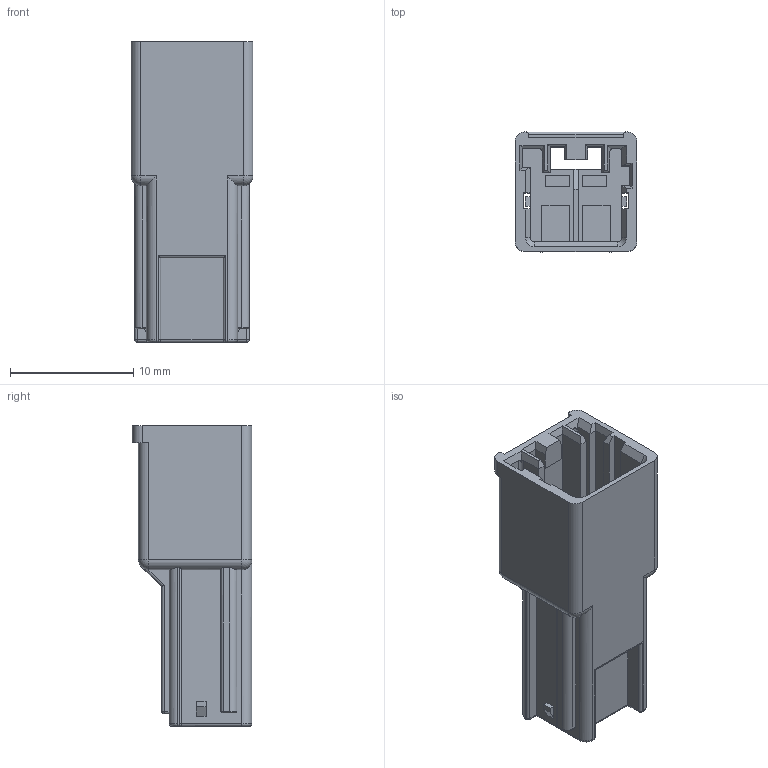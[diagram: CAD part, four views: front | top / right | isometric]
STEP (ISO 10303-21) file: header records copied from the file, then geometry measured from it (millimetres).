
FILE_DESCRIPTION((''),'2;1');
FILE_NAME('5046940205','2019-01-14T',('gga'),(''),'PRO/ENGINEER BY PARAMETRIC TECHNOLOGY CORPORATION, 2016010','PRO/ENGINEER BY PARAMETRIC TECHNOLOGY CORPORATION, 2016010','');
FILE_SCHEMA(('CONFIG_CONTROL_DESIGN'));
Length unit declared in the file: millimetre
Products named in the file (1): 5046940205
Bounding box: 9.9 x 9.7 x 24.4 mm (x, y, z)
Volume: 1044.7 mm3; surface area: 1580.2 mm2
Topology: 1 solids, 1 shells, 235 faces, 613 edges, 381 vertices
Faces by surface type: plane 155, cylinder 60, sphere 10, torus 7, cone 2, bspline 1
Entity records: 7282 total; most frequent: CARTESIAN_POINT 1476, ORIENTED_EDGE 1226, DIRECTION 1157, EDGE_CURVE 613, VECTOR 477, LINE 477, VERTEX_POINT 381, AXIS2_PLACEMENT_3D 340
